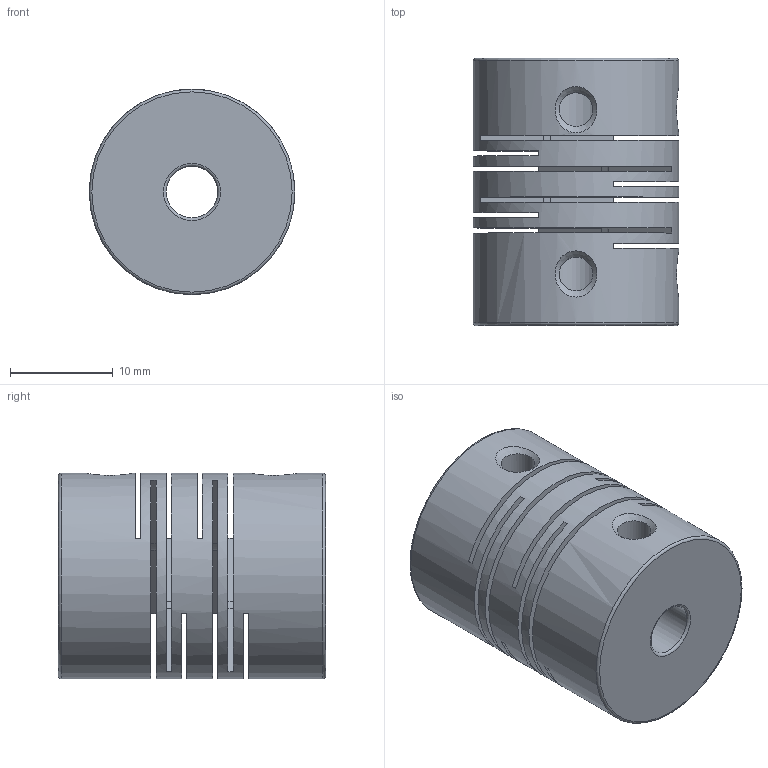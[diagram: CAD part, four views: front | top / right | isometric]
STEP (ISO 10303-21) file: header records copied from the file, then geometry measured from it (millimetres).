
FILE_DESCRIPTION(/* description */ ('STEP AP242 Edition 2','CAx-IF Rec.Pracs.---Representation and Presentation of Product Manufacturing Information (PMI)---4.0---2014-10-13','CAx-IF Rec.Pracs.---3D Tessellated Geometry---0.4---2014-09-14','2;1','CAx-IF Rec.Pracs.---User Defined Attributes---1.5---2016-08-15'),/* implementation_level */ '2;1');
FILE_NAME(/* name */ 'Lead Screw Coupler',/* time_stamp */ '2025-11-29T19:49:45Z',/* author */ (''),/* organization */ (''),/* preprocessor_version */ 'ST-DEVELOPER v20',/* originating_system */ 'ONSHAPE BY PTC INC, 1.207',/* authorisation */ ' ');
FILE_SCHEMA (('AP242_MANAGED_MODEL_BASED_3D_ENGINEERING_MIM_LF { 1 0 10303 442 3 1 4 }'));
Length unit declared in the file: metre
Products named in the file (1): Part 1
Bounding box: 20 x 26 x 20 mm (x, y, z)
Volume: 6099.5 mm3; surface area: 5750.2 mm2
Topology: 1 solids, 1 shells, 50 faces, 172 edges, 113 vertices
Faces by surface type: plane 33, cylinder 7, torus 6, cone 4
Full cylindrical faces by diameter (mm): 3.3 x4, 5.04 x1, 8.05 x1, 20 x1
Entity records: 1654 total; most frequent: CARTESIAN_POINT 369, DIRECTION 257, ORIENTED_EDGE 236, EDGE_CURVE 118, AXIS2_PLACEMENT_3D 97, EDGE_LOOP 92, FACE_BOUND 92, VERTEX_POINT 86
